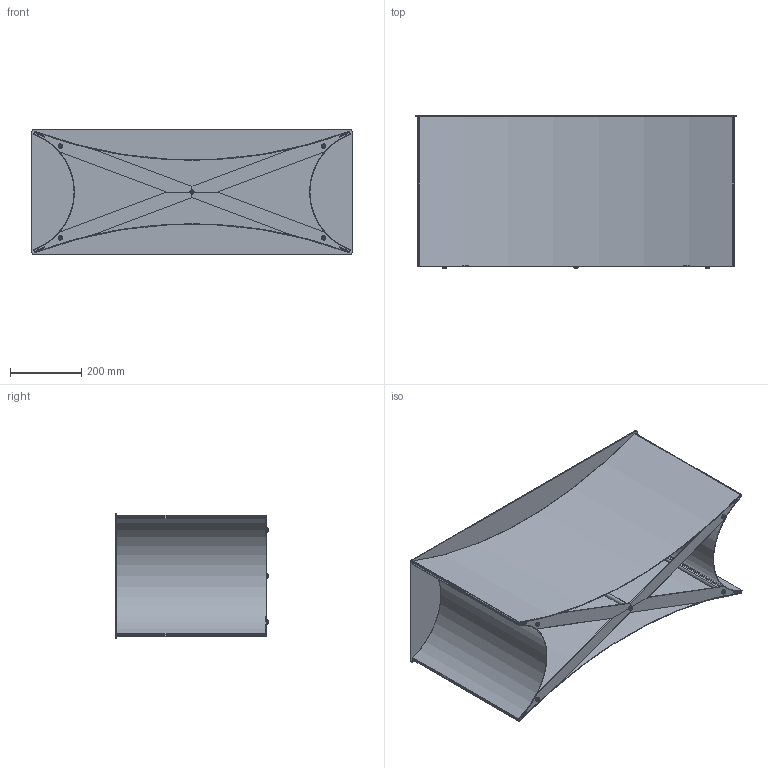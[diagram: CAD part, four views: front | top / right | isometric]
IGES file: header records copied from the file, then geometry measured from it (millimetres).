
Start section: SolidWorks IGES file using analytic representation for surfaces
Global section: file name: \\utenti\Dati Utenti\Tecnico\DC\2D - 3D per sito\3D\DeCastelli-3D-Alchemy Bench.igs; native system: SolidWorks 2022; preprocessor: SolidWorks 2022; author: Simonep; date: 240729.120111; units: millimetre
Bounding box: 900 x 428.05 x 350 mm (x, y, z)
Surface area: 3149135.7 mm2 (no closed solid volume)
Topology: 0 solids, 0 shells, 184 faces, 1540 edges, 1530 vertices
Faces by surface type: bspline 124, revolution 60
